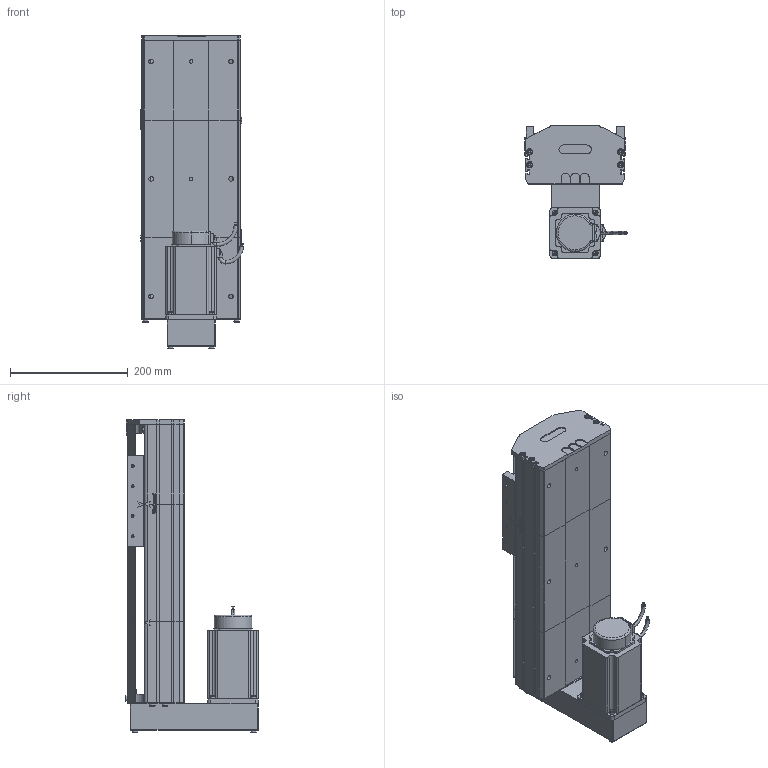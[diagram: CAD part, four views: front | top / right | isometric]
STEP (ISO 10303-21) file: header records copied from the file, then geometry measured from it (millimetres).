
FILE_DESCRIPTION (( 'STEP AP214' ), '1' );
FILE_NAME ('D17 TSH BM S200.STEP', '2010-06-29T14:38:28', ( 'Christophe Gaillard' ), ( 'SGA' ), 'SwSTEP 2.0', 'SolidWorks 2010', '' );
FILE_SCHEMA (( 'AUTOMOTIVE_DESIGN' ));
Length unit declared in the file: millimetre
Products named in the file (33): plaque de  bout BM head D17_Default; Chariot D17; Moteur motionking 90BLDC125A-640; Conecteur2_Default; vis M5 L5_Default; Arbre+rail head D17; avant 90BLDC125A-640; corps 90BLDC125A-640; codeur 90BLDC125-640; Cvis M5 L70_Default; Conecteur_Default; chariot D17S_Default; renvoi Bm_Default; Vis M5 L16-2_Default; vis M5 L12_Default; guide D17; couvercle D17 head_Default; corpl head D17 BM_Default; head BM_Default; vis M5 L25_Default; vis M5 L8 90°_Default; couvercle D17_Default; Arbre+rail tail D17; tete d''axe haut D17; tete d''axe bas D17; plaque de  bout tail D17_Default; corpl tail D17_Default; Tail D17_Default; couvercle D17 course L200_Default; corp D17 200_Default; arbre + rail D17 Course 200 ; course 200 D17_Default; D17 TSH BM S200
Assembly tree (55 placements, depth 4):
  D17 TSH BM S200
    course 200 D17_Default
      arbre + rail D17 Course 200 
      corp D17 200_Default
      couvercle D17 course L200_Default
    head BM_Default
      corpl head D17 BM_Default
      vis M5 L12_Default  x8
      Moteur motionking 90BLDC125A-640
        Conecteur_Default
        corps 90BLDC125A-640
        codeur 90BLDC125-640
        Conecteur2_Default
        avant 90BLDC125A-640
      renvoi Bm_Default
      plaque de  bout BM head D17_Default
      Cvis M5 L70_Default  x2
      Vis M5 L16-2_Default  x4
      vis M5 L5_Default  x2
      couvercle D17 head_Default
      Arbre+rail head D17
    chariot D17S_Default
      vis M5 L12_Default  x4
      guide D17  x2
      Chariot D17
    Tail D17_Default
      vis M5 L12_Default  x4
      Arbre+rail tail D17
      vis M5 L25_Default  x2
      vis M5 L8 90°_Default  x2
      corpl tail D17_Default
      tete d''axe bas D17
      tete d''axe haut D17
      plaque de  bout tail D17_Default
      couvercle D17_Default
Bounding box: 174.95 x 225.7 x 532.7 mm (x, y, z)
Volume: 4632455.4 mm3; surface area: 1103563.5 mm2
Topology: 80 solids, 80 shells, 2215 faces, 5523 edges, 3564 vertices
Faces by surface type: plane 1396, cylinder 542, bspline 136, torus 73, cone 64, sphere 4
Entity records: 71197 total; most frequent: CARTESIAN_POINT 22346, ORIENTED_EDGE 8554, DIRECTION 8026, EDGE_CURVE 4277, VECTOR 3006, LINE 3006, VERTEX_POINT 2810, AXIS2_PLACEMENT_3D 2510
